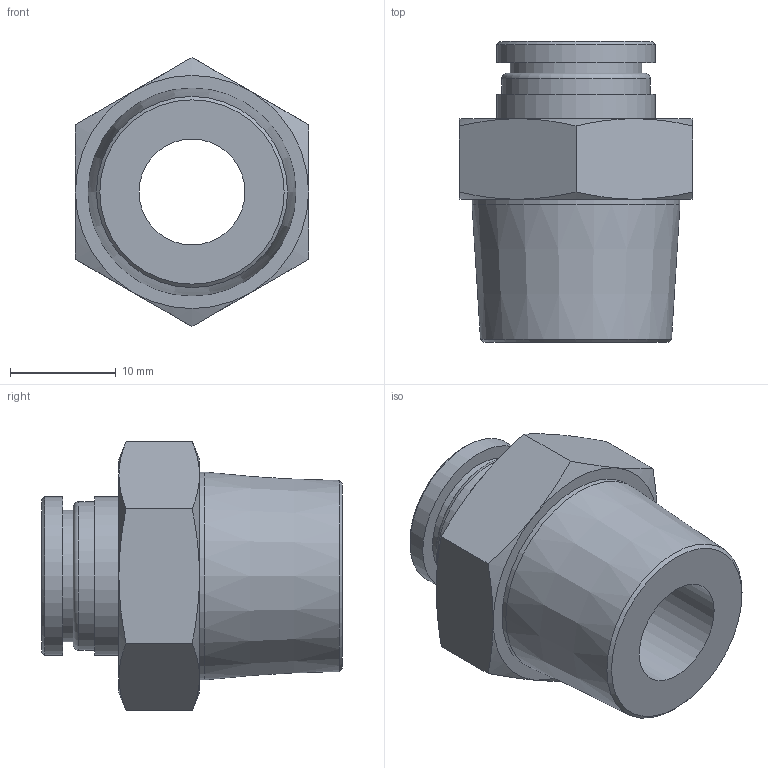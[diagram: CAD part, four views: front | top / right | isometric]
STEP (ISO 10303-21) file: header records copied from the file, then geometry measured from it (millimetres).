
FILE_DESCRIPTION(/* description */ (''),/* implementation_level */ '2;1');
FILE_NAME(/* name */ 'LXH11 0012 B4.stp',/* time_stamp */ '2026-04-19T13:49:16+02:00',/* author */ ('freju'),/* organization */ (''),/* preprocessor_version */ 'ST-DEVELOPER v20.1',/* originating_system */ 'Autodesk Inventor 2026',/* authorisation */ '');
FILE_SCHEMA (('AUTOMOTIVE_DESIGN { 1 0 10303 214 3 1 1 }'));
Length unit declared in the file: millimetre
Products named in the file (1): LXH11 0012 B4
Bounding box: 22 x 28.4 x 25.4 mm (x, y, z)
Volume: 5507.8 mm3; surface area: 3359 mm2
Topology: 1 solids, 1 shells, 37 faces, 74 edges, 45 vertices
Faces by surface type: cone 15, plane 14, cylinder 7, torus 1
Full cylindrical faces by diameter (mm): 10 x1, 12 x1, 12.4 x1, 14 x1, 15 x2, 19.627 x1
Entity records: 981 total; most frequent: CARTESIAN_POINT 205, DIRECTION 160, ORIENTED_EDGE 148, EDGE_CURVE 74, AXIS2_PLACEMENT_3D 72, EDGE_LOOP 45, VERTEX_POINT 45, FACE_OUTER_BOUND 37
